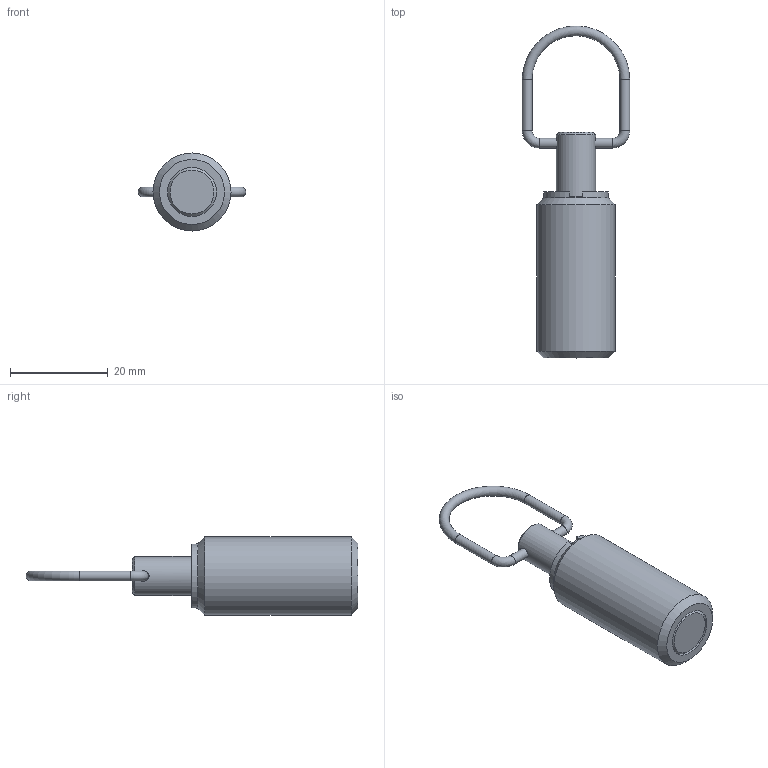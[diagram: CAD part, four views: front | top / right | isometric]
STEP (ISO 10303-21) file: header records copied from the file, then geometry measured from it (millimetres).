
FILE_DESCRIPTION( ( 'STEP AP203' ), '1' );
FILE_NAME( 'C:/Temp/Ganter_Step_05_03_2020/data/3_1/gn_413/gn413_ni/gn413_ni_a/Stainless Steel Indexing plunger GN 413-10-M16-A-NI (activated).stp', '2020-03-12T09:11:06', ( 'License CC BY-ND 4.0' ), ( 'CADENAS' ), ' ', 'PARTsolutions', ' ' );
FILE_SCHEMA( ( 'CONFIG_CONTROL_DESIGN' ) );
Length unit declared in the file: millimetre
Products named in the file (3): Stainless Steel Indexing plunger GN 413-10-M16-A-NI (activated); _Stainless Steel Indexing plunger GN 413-10-M16-A-NI (activated)_f; _Stainless Steel Indexing plunger  GN 413-10-M16-A-NI (activated)_b
Assembly tree (2 placements, depth 2):
  Stainless Steel Indexing plunger GN 413-10-M16-A-NI (activated)
    _Stainless Steel Indexing plunger GN 413-10-M16-A-NI (activated)_f
    _Stainless Steel Indexing plunger  GN 413-10-M16-A-NI (activated)_b
Bounding box: 22 x 68 x 16 mm (x, y, z)
Volume: 7254.1 mm3; surface area: 4758.3 mm2
Topology: 2 solids, 2 shells, 38 faces, 80 edges, 50 vertices
Faces by surface type: plane 16, cylinder 13, cone 6, torus 3
Full cylindrical faces by diameter (mm): 2 x4, 8 x2, 8.3 x1, 10 x2, 11 x2, 13.2 x1, 16 x1
Entity records: 1050 total; most frequent: CARTESIAN_POINT 213, DIRECTION 168, ORIENTED_EDGE 106, AXIS2_PLACEMENT_3D 76, EDGE_LOOP 68, FACE_OUTER_BOUND 54, EDGE_CURVE 53, VERTEX_POINT 45
